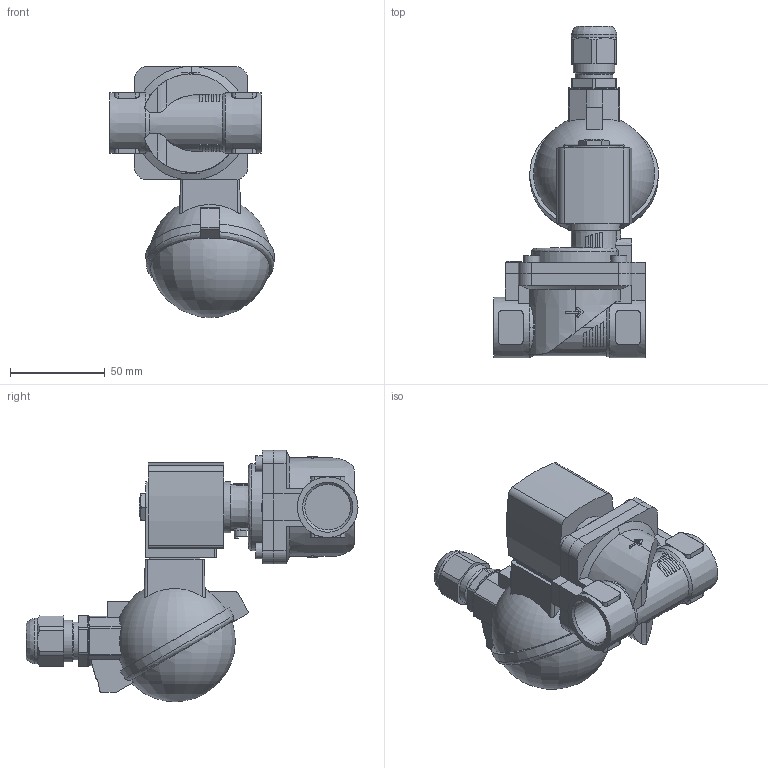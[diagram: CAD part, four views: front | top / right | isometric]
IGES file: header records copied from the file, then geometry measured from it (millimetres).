
Start section: Data from Parasolid IGES Translator 26.0.171, Copyright(c) 2006 Siemens PLM Software. All Rights Reserved.
Global section: file name: 6281-382349-2_2-Way_Solenoid_Valve__Servo-assisted__General_Purpose.igs; native system: By Siemens PLM Incorporated; preprocessor: XPlus GENERIC/IGES 26.0.171; author: Noname; organization: Noname; date: 20240820.212517; units: millimetre
Bounding box: 86.93 x 175.3 x 132.7 mm (x, y, z)
Surface area: 66608.2 mm2 (no closed solid volume)
Topology: 0 solids, 0 shells, 421 faces, 2255 edges, 2238 vertices
Faces by surface type: extrusion 248, revolution 173
